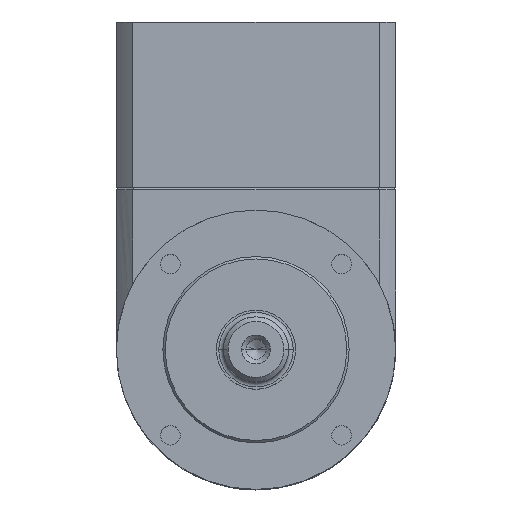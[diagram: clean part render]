
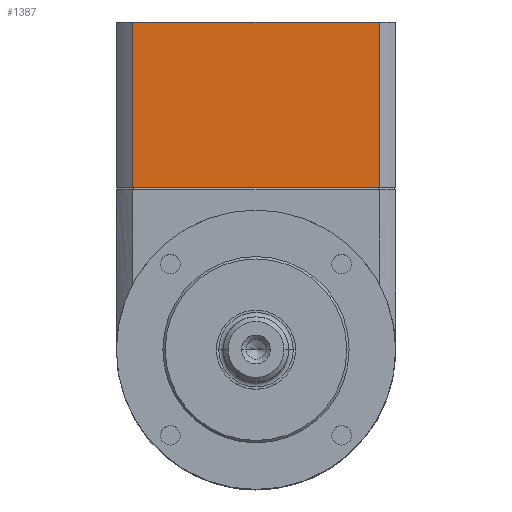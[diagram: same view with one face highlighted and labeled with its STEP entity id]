
A CAD part, top view. The second image highlights one B-rep face of the part: STEP entity #1387.
In plain terms, the highlighted planar face has unit normal (0, 0, 1).
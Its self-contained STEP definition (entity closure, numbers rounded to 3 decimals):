
#146 = LINE ( 'NONE', #3388, #1846 ) ;
#491 = DIRECTION ( 'NONE',  ( 0., 0., -1. ) ) ;
#514 = CARTESIAN_POINT ( 'NONE',  ( 26.458, 70.5, -33.5 ) ) ;
#668 = ORIENTED_EDGE ( 'NONE', *, *, #1265, .T. ) ;
#803 = DIRECTION ( 'NONE',  ( 0., -1., 0. ) ) ;
#1037 = CARTESIAN_POINT ( 'NONE',  ( -26.458, 35., -33.5 ) ) ;
#1048 = EDGE_CURVE ( 'NONE', #2351, #1074, #2329, .T. ) ;
#1074 = VERTEX_POINT ( 'NONE', #1672 ) ;
#1156 = ORIENTED_EDGE ( 'NONE', *, *, #1490, .T. ) ;
#1241 = CARTESIAN_POINT ( 'NONE',  ( 0., 35., -33.5 ) ) ;
#1265 = EDGE_CURVE ( 'NONE', #1930, #1074, #1659, .T. ) ;
#1387 = ADVANCED_FACE ( 'NONE', ( #2185 ), #3360, .F. ) ;
#1466 = EDGE_LOOP ( 'NONE', ( #668, #1765, #2618, #1156 ) ) ;
#1490 = EDGE_CURVE ( 'NONE', #2256, #1930, #2562, .T. ) ;
#1649 = DIRECTION ( 'NONE',  ( 0., -1., 0. ) ) ;
#1659 = LINE ( 'NONE', #1241, #1696 ) ;
#1672 = CARTESIAN_POINT ( 'NONE',  ( 26.458, 35., -33.5 ) ) ;
#1696 = VECTOR ( 'NONE', #3334, 1000. ) ;
#1765 = ORIENTED_EDGE ( 'NONE', *, *, #1048, .F. ) ;
#1846 = VECTOR ( 'NONE', #3118, 1000. ) ;
#1930 = VERTEX_POINT ( 'NONE', #1037 ) ;
#2051 = CARTESIAN_POINT ( 'NONE',  ( -26.458, 70.5, -33.5 ) ) ;
#2069 = CARTESIAN_POINT ( 'NONE',  ( 0., 70.5, -33.5 ) ) ;
#2151 = CARTESIAN_POINT ( 'NONE',  ( -26.458, 70.5, -33.5 ) ) ;
#2185 = FACE_OUTER_BOUND ( 'NONE', #1466, .T. ) ;
#2256 = VERTEX_POINT ( 'NONE', #2051 ) ;
#2325 = DIRECTION ( 'NONE',  ( -1., 0., 0. ) ) ;
#2329 = LINE ( 'NONE', #3192, #2439 ) ;
#2351 = VERTEX_POINT ( 'NONE', #514 ) ;
#2426 = EDGE_CURVE ( 'NONE', #2256, #2351, #146, .T. ) ;
#2439 = VECTOR ( 'NONE', #1649, 1000. ) ;
#2562 = LINE ( 'NONE', #2151, #2925 ) ;
#2618 = ORIENTED_EDGE ( 'NONE', *, *, #2426, .F. ) ;
#2775 = AXIS2_PLACEMENT_3D ( 'NONE', #2069, #491, #2325 ) ;
#2925 = VECTOR ( 'NONE', #803, 1000. ) ;
#3118 = DIRECTION ( 'NONE',  ( 1., 0., 0. ) ) ;
#3192 = CARTESIAN_POINT ( 'NONE',  ( 26.458, 70.5, -33.5 ) ) ;
#3334 = DIRECTION ( 'NONE',  ( 1., 0., 0. ) ) ;
#3360 = PLANE ( 'NONE',  #2775 ) ;
#3388 = CARTESIAN_POINT ( 'NONE',  ( 0., 70.5, -33.5 ) ) ;
